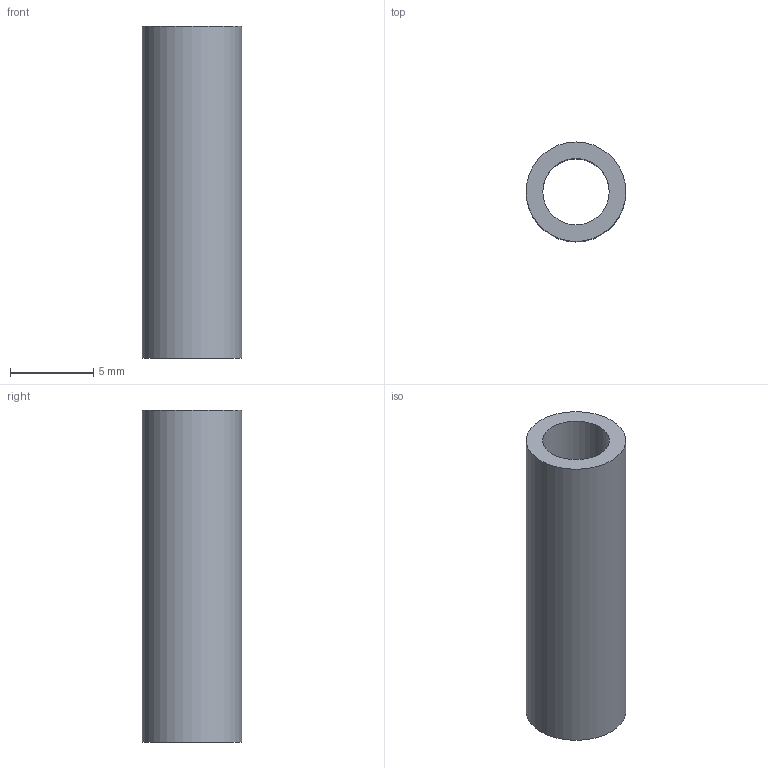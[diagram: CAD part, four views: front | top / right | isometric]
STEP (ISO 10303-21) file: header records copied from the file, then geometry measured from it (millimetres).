
FILE_DESCRIPTION(('Open CASCADE Model'),'2;1');
FILE_NAME('Open CASCADE Shape Model','2026-10-28T05:15:08',('Author'),( 'Open CASCADE'),'Open CASCADE STEP processor 7.8','Open CASCADE 7.8' ,'Unknown');
FILE_SCHEMA(('AUTOMOTIVE_DESIGN { 1 0 10303 214 1 1 1 1 }'));
Length unit declared in the file: millimetre
Products named in the file (1): Open CASCADE STEP translator 7.8 6
Bounding box: 6 x 6 x 20 mm (x, y, z)
Volume: 314.2 mm3; surface area: 659.7 mm2
Topology: 1 solids, 1 shells, 4 faces, 6 edges, 4 vertices
Faces by surface type: cylinder 2, plane 2
Full cylindrical faces by diameter (mm): 4 x1, 6 x1
Entity records: 186 total; most frequent: DIRECTION 32, CARTESIAN_POINT 27, ORIENTED_EDGE 12, PCURVE 12, DEFINITIONAL_REPRESENTATION 12, LINE 10, VECTOR 10, AXIS2_PLACEMENT_3D 9
